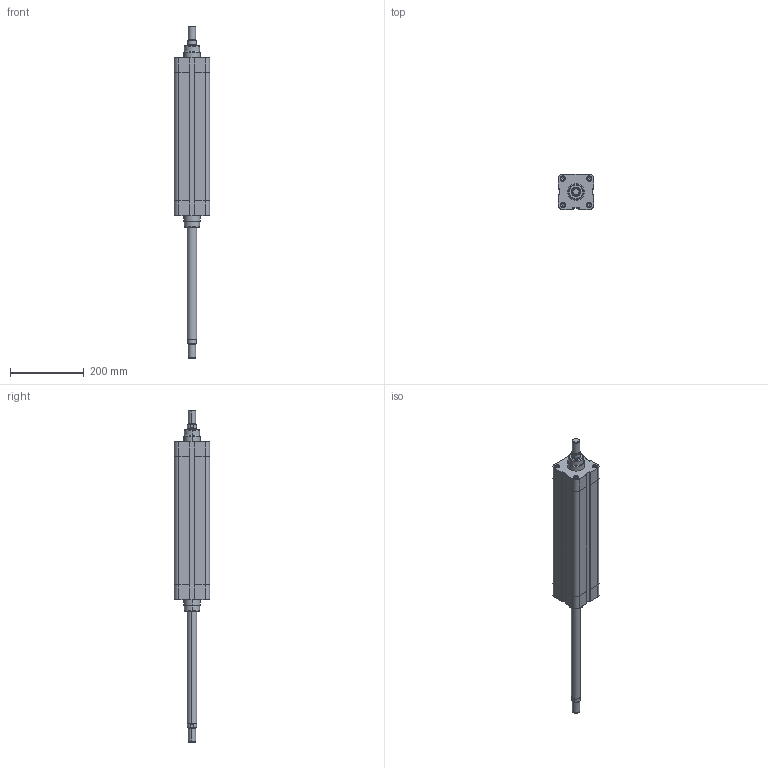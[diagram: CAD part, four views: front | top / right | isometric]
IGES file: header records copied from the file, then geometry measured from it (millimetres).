
Global section: file name: No Iges File Name specified; native system: AutoDesk Inventor R6.1; preprocessor: AutoDesk Inventor Iges Exporter R6.1; author: No Author specified; organization: No Organization specified; date: 20040107.171306; units: millimetre
Bounding box: 95.5 x 95.5 x 900 mm (x, y, z)
Volume: 4010057.9 mm3; surface area: 321196.8 mm2
Topology: 2 solids, 2 shells, 236 faces, 564 edges, 356 vertices
Faces by surface type: plane 80, bspline 62, cylinder 42, revolution 32, cone 16, torus 4
